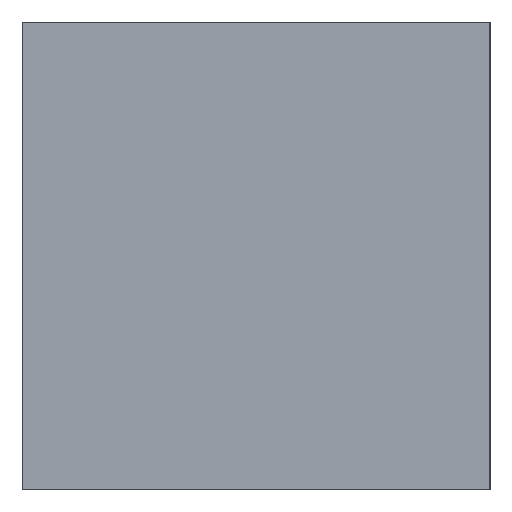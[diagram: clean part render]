
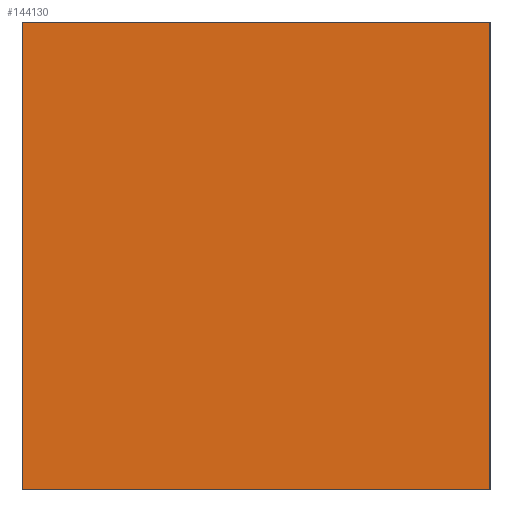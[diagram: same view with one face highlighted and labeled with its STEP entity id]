
A CAD part, left-side view. The second image highlights one B-rep face of the part: STEP entity #144130.
In plain terms, the highlighted planar face has unit normal (1, 0, 0).
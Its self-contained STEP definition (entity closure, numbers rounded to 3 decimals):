
#144091=CARTESIAN_POINT('Axis2P3D Location',(-15000.,0.,0.)) ;
#144096=CARTESIAN_POINT('Line Origine',(-15000.,0.,-15000.)) ;
#144100=CARTESIAN_POINT('Vertex',(-15000.,15000.,-15000.)) ;
#144102=CARTESIAN_POINT('Vertex',(-15000.,-15000.,-15000.)) ;
#144105=CARTESIAN_POINT('Line Origine',(-15000.,15000.,0.)) ;
#144109=CARTESIAN_POINT('Vertex',(-15000.,15000.,15000.)) ;
#144112=CARTESIAN_POINT('Line Origine',(-15000.,0.,15000.)) ;
#144116=CARTESIAN_POINT('Vertex',(-15000.,-15000.,15000.)) ;
#144119=CARTESIAN_POINT('Line Origine',(-15000.,-15000.,0.)) ;
#144092=DIRECTION('Axis2P3D Direction',(1.,0.,-0.)) ;
#144093=DIRECTION('Axis2P3D XDirection',(0.,0.,1.)) ;
#144097=DIRECTION('Vector Direction',(0.,1.,0.)) ;
#144106=DIRECTION('Vector Direction',(0.,0.,-1.)) ;
#144113=DIRECTION('Vector Direction',(0.,1.,0.)) ;
#144120=DIRECTION('Vector Direction',(0.,0.,-1.)) ;
#144094=AXIS2_PLACEMENT_3D('Plane Axis2P3D',#144091,#144092,#144093) ;
#144125=ORIENTED_EDGE('',*,*,#144104,.F.) ;
#144126=ORIENTED_EDGE('',*,*,#144111,.F.) ;
#144127=ORIENTED_EDGE('',*,*,#144118,.F.) ;
#144128=ORIENTED_EDGE('',*,*,#144123,.F.) ;
#144098=VECTOR('Line Direction',#144097,1.) ;
#144107=VECTOR('Line Direction',#144106,1.) ;
#144114=VECTOR('Line Direction',#144113,1.) ;
#144121=VECTOR('Line Direction',#144120,1.) ;
#144130=ADVANCED_FACE('Remplissage.6',(#144129),#144095,.T.) ;
#144104=EDGE_CURVE('',#144101,#144103,#144099,.F.) ;
#144111=EDGE_CURVE('',#144110,#144101,#144108,.T.) ;
#144118=EDGE_CURVE('',#144117,#144110,#144115,.T.) ;
#144123=EDGE_CURVE('',#144103,#144117,#144122,.F.) ;
#144124=EDGE_LOOP('',(#144125,#144126,#144127,#144128)) ;
#144129=FACE_OUTER_BOUND('',#144124,.T.) ;
#144099=LINE('Line',#144096,#144098) ;
#144108=LINE('Line',#144105,#144107) ;
#144115=LINE('Line',#144112,#144114) ;
#144122=LINE('Line',#144119,#144121) ;
#144095=PLANE('Plane',#144094) ;
#144101=VERTEX_POINT('',#144100) ;
#144103=VERTEX_POINT('',#144102) ;
#144110=VERTEX_POINT('',#144109) ;
#144117=VERTEX_POINT('',#144116) ;
